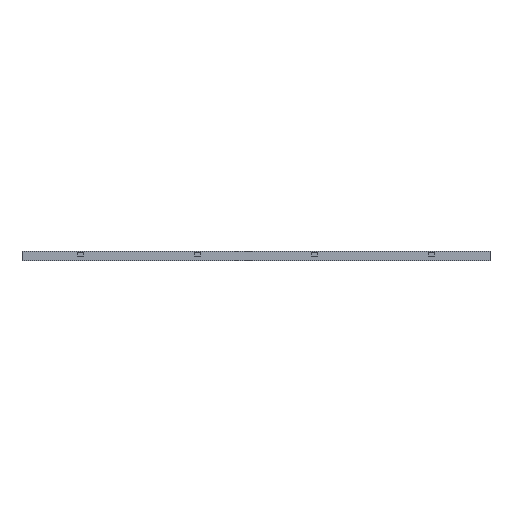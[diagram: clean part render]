
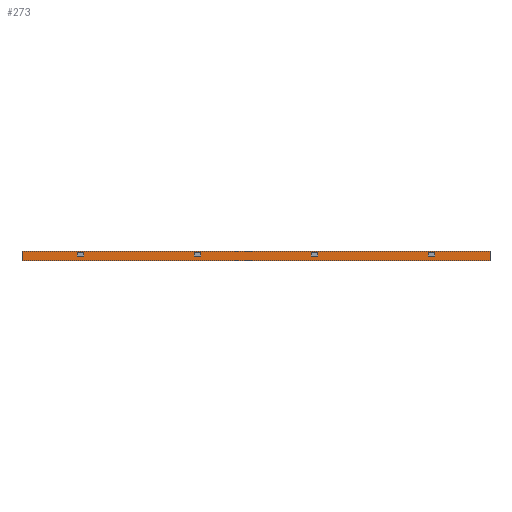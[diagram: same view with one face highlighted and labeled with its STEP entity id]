
A CAD part, left-side view. The second image highlights one B-rep face of the part: STEP entity #273.
In plain terms, the highlighted planar face has unit normal (-1, 0, 0).
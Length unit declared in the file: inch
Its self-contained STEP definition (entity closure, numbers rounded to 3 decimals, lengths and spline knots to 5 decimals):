
#18=FACE_BOUND('',#830,.T.);
#19=FACE_BOUND('',#831,.T.);
#20=FACE_BOUND('',#832,.T.);
#21=FACE_BOUND('',#833,.T.);
#273=ADVANCED_FACE('',(#549,#18,#19,#20,#21),#4781,.T.);
#549=FACE_OUTER_BOUND('',#829,.T.);
#829=EDGE_LOOP('',(#1702,#1703,#1704,#1705));
#830=EDGE_LOOP('',(#1706,#1707,#1708,#1709));
#831=EDGE_LOOP('',(#1710,#1711,#1712,#1713));
#832=EDGE_LOOP('',(#1714,#1715,#1716,#1717));
#833=EDGE_LOOP('',(#1718,#1719,#1720,#1721));
#1702=ORIENTED_EDGE('',*,*,#3046,.T.);
#1703=ORIENTED_EDGE('',*,*,#3047,.T.);
#1704=ORIENTED_EDGE('',*,*,#3048,.T.);
#1705=ORIENTED_EDGE('',*,*,#3049,.T.);
#1706=ORIENTED_EDGE('',*,*,#2684,.F.);
#1707=ORIENTED_EDGE('',*,*,#2714,.F.);
#1708=ORIENTED_EDGE('',*,*,#2651,.F.);
#1709=ORIENTED_EDGE('',*,*,#2614,.F.);
#1710=ORIENTED_EDGE('',*,*,#2840,.F.);
#1711=ORIENTED_EDGE('',*,*,#2870,.F.);
#1712=ORIENTED_EDGE('',*,*,#2807,.F.);
#1713=ORIENTED_EDGE('',*,*,#2770,.F.);
#1714=ORIENTED_EDGE('',*,*,#2996,.F.);
#1715=ORIENTED_EDGE('',*,*,#3026,.F.);
#1716=ORIENTED_EDGE('',*,*,#2963,.F.);
#1717=ORIENTED_EDGE('',*,*,#2926,.F.);
#1718=ORIENTED_EDGE('',*,*,#3053,.T.);
#1719=ORIENTED_EDGE('',*,*,#3050,.T.);
#1720=ORIENTED_EDGE('',*,*,#3051,.T.);
#1721=ORIENTED_EDGE('',*,*,#3052,.T.);
#2614=EDGE_CURVE('',#4150,#4151,#3382,.T.);
#2651=EDGE_CURVE('',#4151,#4176,#3419,.T.);
#2684=EDGE_CURVE('',#4198,#4150,#3452,.T.);
#2714=EDGE_CURVE('',#4176,#4198,#3482,.T.);
#2770=EDGE_CURVE('',#4254,#4255,#3538,.T.);
#2807=EDGE_CURVE('',#4255,#4280,#3575,.T.);
#2840=EDGE_CURVE('',#4302,#4254,#3608,.T.);
#2870=EDGE_CURVE('',#4280,#4302,#3638,.T.);
#2926=EDGE_CURVE('',#4358,#4359,#3694,.T.);
#2963=EDGE_CURVE('',#4359,#4384,#3731,.T.);
#2996=EDGE_CURVE('',#4406,#4358,#3764,.T.);
#3026=EDGE_CURVE('',#4384,#4406,#3794,.T.);
#3046=EDGE_CURVE('',#4426,#4427,#3814,.T.);
#3047=EDGE_CURVE('',#4427,#4428,#3815,.T.);
#3048=EDGE_CURVE('',#4428,#4429,#3816,.T.);
#3049=EDGE_CURVE('',#4429,#4426,#3817,.T.);
#3050=EDGE_CURVE('',#4430,#4431,#3818,.T.);
#3051=EDGE_CURVE('',#4431,#4432,#3819,.T.);
#3052=EDGE_CURVE('',#4432,#4433,#3820,.T.);
#3053=EDGE_CURVE('',#4433,#4430,#3821,.T.);
#3382=B_SPLINE_CURVE_WITH_KNOTS('',1,(#6419,#6420),.UNSPECIFIED.,.F.,.F.,
(2,2),(0.,1.25),.UNSPECIFIED.);
#3419=B_SPLINE_CURVE_WITH_KNOTS('',1,(#6493,#6494),.UNSPECIFIED.,.F.,.F.,
(2,2),(0.,0.75),.UNSPECIFIED.);
#3452=B_SPLINE_CURVE_WITH_KNOTS('',1,(#6559,#6560),.UNSPECIFIED.,.F.,.F.,
(2,2),(0.,0.75),.UNSPECIFIED.);
#3482=B_SPLINE_CURVE_WITH_KNOTS('',1,(#6619,#6620),.UNSPECIFIED.,.F.,.F.,
(2,2),(0.,1.25),.UNSPECIFIED.);
#3538=B_SPLINE_CURVE_WITH_KNOTS('',1,(#6731,#6732),.UNSPECIFIED.,.F.,.F.,
(2,2),(0.,1.25),.UNSPECIFIED.);
#3575=B_SPLINE_CURVE_WITH_KNOTS('',1,(#6805,#6806),.UNSPECIFIED.,.F.,.F.,
(2,2),(0.,0.75),.UNSPECIFIED.);
#3608=B_SPLINE_CURVE_WITH_KNOTS('',1,(#6871,#6872),.UNSPECIFIED.,.F.,.F.,
(2,2),(0.,0.75),.UNSPECIFIED.);
#3638=B_SPLINE_CURVE_WITH_KNOTS('',1,(#6931,#6932),.UNSPECIFIED.,.F.,.F.,
(2,2),(0.,1.25),.UNSPECIFIED.);
#3694=B_SPLINE_CURVE_WITH_KNOTS('',1,(#7043,#7044),.UNSPECIFIED.,.F.,.F.,
(2,2),(0.,1.25),.UNSPECIFIED.);
#3731=B_SPLINE_CURVE_WITH_KNOTS('',1,(#7117,#7118),.UNSPECIFIED.,.F.,.F.,
(2,2),(0.,0.75),.UNSPECIFIED.);
#3764=B_SPLINE_CURVE_WITH_KNOTS('',1,(#7183,#7184),.UNSPECIFIED.,.F.,.F.,
(2,2),(0.,0.75),.UNSPECIFIED.);
#3794=B_SPLINE_CURVE_WITH_KNOTS('',1,(#7243,#7244),.UNSPECIFIED.,.F.,.F.,
(2,2),(0.,1.25),.UNSPECIFIED.);
#3814=B_SPLINE_CURVE_WITH_KNOTS('',1,(#7283,#7284),.UNSPECIFIED.,.F.,.F.,
(2,2),(0.,96.),.UNSPECIFIED.);
#3815=B_SPLINE_CURVE_WITH_KNOTS('',1,(#7285,#7286),.UNSPECIFIED.,.F.,.F.,
(2,2),(0.,2.),.UNSPECIFIED.);
#3816=B_SPLINE_CURVE_WITH_KNOTS('',1,(#7287,#7288),.UNSPECIFIED.,.F.,.F.,
(2,2),(0.,96.),.UNSPECIFIED.);
#3817=B_SPLINE_CURVE_WITH_KNOTS('',1,(#7289,#7290),.UNSPECIFIED.,.F.,.F.,
(2,2),(0.,2.),.UNSPECIFIED.);
#3818=B_SPLINE_CURVE_WITH_KNOTS('',1,(#7291,#7292),.UNSPECIFIED.,.F.,.F.,
(2,2),(0.,1.25),.UNSPECIFIED.);
#3819=B_SPLINE_CURVE_WITH_KNOTS('',1,(#7293,#7294),.UNSPECIFIED.,.F.,.F.,
(2,2),(0.,0.75),.UNSPECIFIED.);
#3820=B_SPLINE_CURVE_WITH_KNOTS('',1,(#7295,#7296),.UNSPECIFIED.,.F.,.F.,
(2,2),(0.,1.25),.UNSPECIFIED.);
#3821=B_SPLINE_CURVE_WITH_KNOTS('',1,(#7297,#7298),.UNSPECIFIED.,.F.,.F.,
(2,2),(0.,0.75),.UNSPECIFIED.);
#4150=VERTEX_POINT('',#5863);
#4151=VERTEX_POINT('',#5864);
#4176=VERTEX_POINT('',#5889);
#4198=VERTEX_POINT('',#5911);
#4254=VERTEX_POINT('',#5967);
#4255=VERTEX_POINT('',#5968);
#4280=VERTEX_POINT('',#5993);
#4302=VERTEX_POINT('',#6015);
#4358=VERTEX_POINT('',#6071);
#4359=VERTEX_POINT('',#6072);
#4384=VERTEX_POINT('',#6097);
#4406=VERTEX_POINT('',#6119);
#4426=VERTEX_POINT('',#6139);
#4427=VERTEX_POINT('',#6140);
#4428=VERTEX_POINT('',#6141);
#4429=VERTEX_POINT('',#6142);
#4430=VERTEX_POINT('',#6143);
#4431=VERTEX_POINT('',#6144);
#4432=VERTEX_POINT('',#6145);
#4433=VERTEX_POINT('',#6146);
#4781=PLANE('',#5148);
#5148=AXIS2_PLACEMENT_3D('',#5706,#5427,$);
#5427=DIRECTION('',(-1.,0.,0.));
#5706=CARTESIAN_POINT('',(-21.25,57.60472,1.20472));
#5863=CARTESIAN_POINT('',(-21.25,35.375,0.75));
#5864=CARTESIAN_POINT('',(-21.25,36.625,0.75));
#5889=CARTESIAN_POINT('',(-21.25,36.625,0.));
#5911=CARTESIAN_POINT('',(-21.25,35.375,0.));
#5967=CARTESIAN_POINT('',(-21.25,11.375,0.75));
#5968=CARTESIAN_POINT('',(-21.25,12.625,0.75));
#5993=CARTESIAN_POINT('',(-21.25,12.625,0.));
#6015=CARTESIAN_POINT('',(-21.25,11.375,0.));
#6071=CARTESIAN_POINT('',(-21.25,-12.625,0.75));
#6072=CARTESIAN_POINT('',(-21.25,-11.375,0.75));
#6097=CARTESIAN_POINT('',(-21.25,-11.375,0.));
#6119=CARTESIAN_POINT('',(-21.25,-12.625,0.));
#6139=CARTESIAN_POINT('',(-21.25,48.,-1.));
#6140=CARTESIAN_POINT('',(-21.25,-48.,-1.));
#6141=CARTESIAN_POINT('',(-21.25,-48.,1.));
#6142=CARTESIAN_POINT('',(-21.25,48.,1.));
#6143=CARTESIAN_POINT('',(-21.25,-35.375,0.75));
#6144=CARTESIAN_POINT('',(-21.25,-36.625,0.75));
#6145=CARTESIAN_POINT('',(-21.25,-36.625,0.));
#6146=CARTESIAN_POINT('',(-21.25,-35.375,0.));
#6419=CARTESIAN_POINT('',(-21.25,35.375,0.75));
#6420=CARTESIAN_POINT('',(-21.25,36.625,0.75));
#6493=CARTESIAN_POINT('',(-21.25,36.625,0.75));
#6494=CARTESIAN_POINT('',(-21.25,36.625,0.));
#6559=CARTESIAN_POINT('',(-21.25,35.375,0.));
#6560=CARTESIAN_POINT('',(-21.25,35.375,0.75));
#6619=CARTESIAN_POINT('',(-21.25,36.625,0.));
#6620=CARTESIAN_POINT('',(-21.25,35.375,0.));
#6731=CARTESIAN_POINT('',(-21.25,11.375,0.75));
#6732=CARTESIAN_POINT('',(-21.25,12.625,0.75));
#6805=CARTESIAN_POINT('',(-21.25,12.625,0.75));
#6806=CARTESIAN_POINT('',(-21.25,12.625,0.));
#6871=CARTESIAN_POINT('',(-21.25,11.375,0.));
#6872=CARTESIAN_POINT('',(-21.25,11.375,0.75));
#6931=CARTESIAN_POINT('',(-21.25,12.625,0.));
#6932=CARTESIAN_POINT('',(-21.25,11.375,0.));
#7043=CARTESIAN_POINT('',(-21.25,-12.625,0.75));
#7044=CARTESIAN_POINT('',(-21.25,-11.375,0.75));
#7117=CARTESIAN_POINT('',(-21.25,-11.375,0.75));
#7118=CARTESIAN_POINT('',(-21.25,-11.375,0.));
#7183=CARTESIAN_POINT('',(-21.25,-12.625,0.));
#7184=CARTESIAN_POINT('',(-21.25,-12.625,0.75));
#7243=CARTESIAN_POINT('',(-21.25,-11.375,0.));
#7244=CARTESIAN_POINT('',(-21.25,-12.625,0.));
#7283=CARTESIAN_POINT('',(-21.25,48.,-1.));
#7284=CARTESIAN_POINT('',(-21.25,-48.,-1.));
#7285=CARTESIAN_POINT('',(-21.25,-48.,-1.));
#7286=CARTESIAN_POINT('',(-21.25,-48.,1.));
#7287=CARTESIAN_POINT('',(-21.25,-48.,1.));
#7288=CARTESIAN_POINT('',(-21.25,48.,1.));
#7289=CARTESIAN_POINT('',(-21.25,48.,1.));
#7290=CARTESIAN_POINT('',(-21.25,48.,-1.));
#7291=CARTESIAN_POINT('',(-21.25,-35.375,0.75));
#7292=CARTESIAN_POINT('',(-21.25,-36.625,0.75));
#7293=CARTESIAN_POINT('',(-21.25,-36.625,0.75));
#7294=CARTESIAN_POINT('',(-21.25,-36.625,0.));
#7295=CARTESIAN_POINT('',(-21.25,-36.625,0.));
#7296=CARTESIAN_POINT('',(-21.25,-35.375,0.));
#7297=CARTESIAN_POINT('',(-21.25,-35.375,0.));
#7298=CARTESIAN_POINT('',(-21.25,-35.375,0.75));
